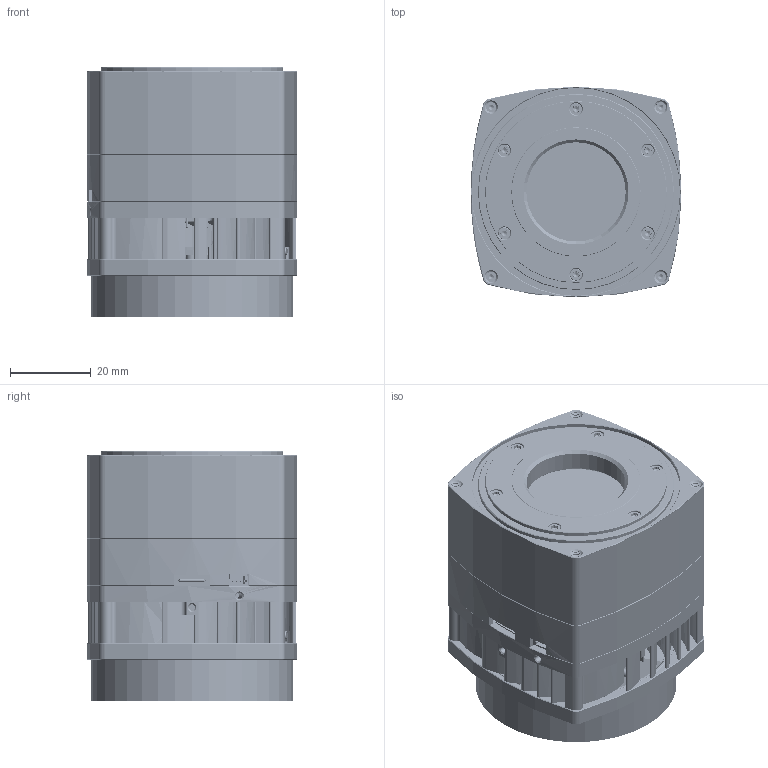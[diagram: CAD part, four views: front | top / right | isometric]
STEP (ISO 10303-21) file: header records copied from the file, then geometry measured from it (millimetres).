
FILE_DESCRIPTION(/* description */ (''),/* implementation_level */ '2;1');
FILE_NAME(/* name */ 'STP-MJ-(MJ042MR-GP-P6-BSI)-Cmount.stp',/* time_stamp */ '2021-09-22T16:52:27+02:00',/* author */ (''),/* organization */ (''),/* preprocessor_version */ 'ST-DEVELOPER v16.7',/* originating_system */ 'SIEMENS PLM Software NX 1907',/* authorisation */ '');
FILE_SCHEMA (('AUTOMOTIVE_DESIGN { 1 0 10303 214 3 1 1 1 }'));
Products named in the file (34): SROB-M1.6X5-CSK-TX-STNLS; MECH-MJ-52MM-CMOUNT-A; CONN-815-22-004-30-001101; DF40HC_4.0_-60DS_stp; SM03B-SRSS-TB_step; 1054500101_stp; Board-CM-U3-PCA; GSENSE2020-BODY; R-32207615; MJ-52MM-FAN-50X15MM-CUST1; CONN-319-10-104-CUT; SROB-M1.6X20-CSK-TX-STNLS; MECH-MJ-52MM-COOL-CVR; MECH-MJ-52MM-COOL-HTS; FOIL-IND-20X20X0.1MM; MECH-LIGHTPIPE-1X2.5MM-CUST; DF40-60-EXT-1.5MM-PCA; PELT-2MDX06-138-0510AN; TP-11X11X0.08-TPCM580; MECH-MJ042-INC; PCB-MJ-PLT; SROB-M1.6X3-CSK-TX-STNLS; SROB-M1.6X6-CUST-R-PEEK; SROB-M1.6X6-CUST-PEEK; CM2020-PCA; SROB-M1.6X12-CSK-TX-CUST; MECH-MJ-52MM-MID-CU; FLT-SPH-AR2X-D35X1; MECH-MJ-52MM-FRONT-STNLS; LA-MJ-C-MOUNT-A; CM-U3-PCA; GSENSE2020BSI; MJ-52MM-COOL-SUBASSM; MJ042MR-GP-P6-B-MAIN-SUBA
Assembly tree (52 placements, depth 3):
  MJ042MR-GP-P6-B-MAIN-SUBA
    MECH-MJ-52MM-FRONT-STNLS
    FLT-SPH-AR2X-D35X1
    MECH-MJ-52MM-MID-CU
    MJ-52MM-COOL-SUBASSM
      MECH-MJ-52MM-COOL-HTS
      MECH-MJ-52MM-COOL-CVR
      SROB-M1.6X20-CSK-TX-STNLS  x4
      CONN-319-10-104-CUT
      MJ-52MM-FAN-50X15MM-CUST1
      R-32207615
    SROB-M1.6X12-CSK-TX-CUST  x4
    GSENSE2020BSI
      GSENSE2020-BODY
    CM2020-PCA
    SROB-M1.6X6-CUST-PEEK  x2
    SROB-M1.6X6-CUST-R-PEEK  x2
    CM-U3-PCA
      Board-CM-U3-PCA
      1054500101_stp
      SM03B-SRSS-TB_step
      DF40HC_4.0_-60DS_stp
      CONN-815-22-004-30-001101
    SROB-M1.6X3-CSK-TX-STNLS  x4
    PCB-MJ-PLT
    MECH-MJ042-INC
    TP-11X11X0.08-TPCM580  x2
    LA-MJ-C-MOUNT-A
      MECH-MJ-52MM-CMOUNT-A
      SROB-M1.6X5-CSK-TX-STNLS  x6
    PELT-2MDX06-138-0510AN
    DF40-60-EXT-1.5MM-PCA
    MECH-LIGHTPIPE-1X2.5MM-CUST  x3
    FOIL-IND-20X20X0.1MM
Bounding box: 52.1 x 52.1 x 61.95 mm (x, y, z)
Volume: 70820.6 mm3; surface area: 74512.8 mm2
Topology: 176 solids, 179 shells, 12264 faces, 31201 edges, 20021 vertices
Faces by surface type: plane 5709, cylinder 3617, cone 1296, torus 1163, bspline 445, sphere 20, extrusion 14
Full cylindrical faces by diameter (mm): 0.3 x155, 0.35 x15, 0.44 x34, 0.51 x119, 0.7 x119, 0.71 x119, 0.8 x12, 0.859 x119, 0.97 x238, 1 x3, 1.07 x119, 1.25 x2, 1.3 x10, 1.6 x56, 1.9 x2, 2.5 x64, 2.9 x4, 2.95 x14, 3 x8, 3.2 x10, 18 x1, 24.57 x1, 33.8 x1, 34.1 x1, 35 x1, 35.04 x1, 36 x1, 36.2 x1, 39.2 x1, 42.8 x1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
Entity records: 433237 total; most frequent: CARTESIAN_POINT 156862, DIRECTION 56216, ORIENTED_EDGE 52992, EDGE_CURVE 26496, AXIS2_PLACEMENT_3D 20239, VERTEX_POINT 18536, EDGE_LOOP 15923, VECTOR 15738
